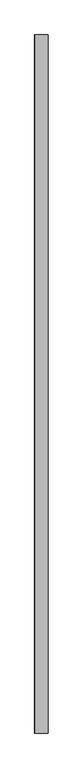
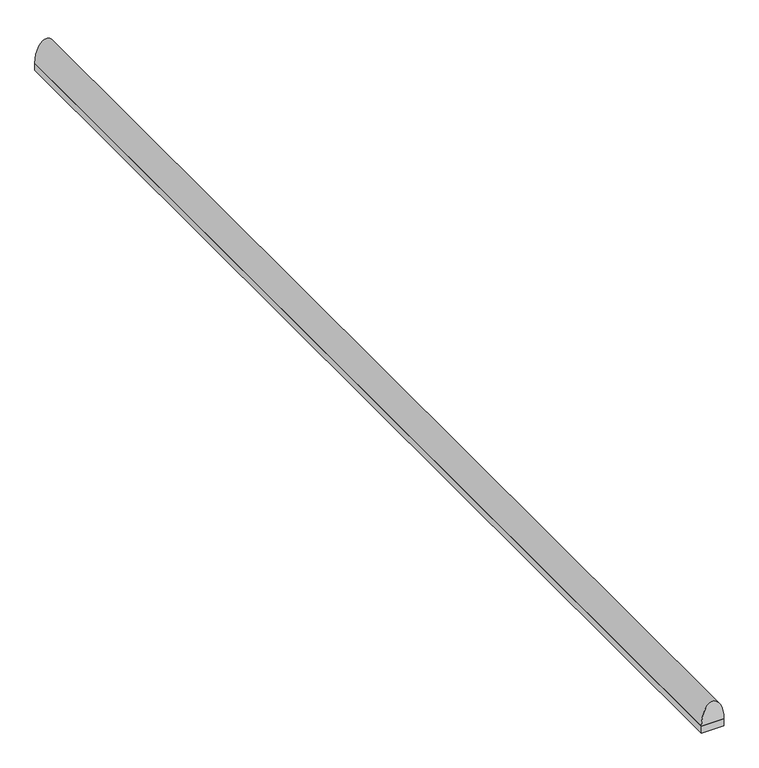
"""IFC4 building model written with IfcOpenShell, lengths in millimetres: proxy geometry, Spinneybeck_ARO Plank 1 : B - 2 1/4 in (5.7 cm)."""

from ifc_helpers import new_model, si_unit, point, frame, origin, origin_with_axes, place, context, project, spatial, polyline, ellipse_curve, trimmed, outline, extrude, source, transform, mapped, element, save
from ifc_brep_helpers import plane_surface, extruded_surface, advanced_brep


def specialty_equipment_0e2ca00c(model_context):
    return source(origin(), model_context, "Body", "SolidModel", [
        advanced_brep(
        [(28.575, 2946.4, 19.05), (-28.575, 2946.4, 19.05), (28.575, 0.0, 19.05), (-28.575, 0.0, 19.05)],
        [
            (0, 1),
            (1, 0, ellipse_curve(frame((0.0, 2946.4, 19.05), z_axis=(0.0, 1.0, 0.0), x_axis=(-1.0, 0.0, 0.0)), 28.575, 57.15)),
            (2, 3, ellipse_curve(frame((0.0, 0.0, 19.05), z_axis=(0.0, -1.0, 0.0), x_axis=(-1.0, 0.0, 0.0)), 28.575, 57.15)),
            (3, 2),
            (0, 2),
            (3, 1),
        ],
        [
            plane_surface(frame((0.0, 2946.4, 0.0), z_axis=(0.0, 1.0, 0.0), x_axis=(0.0, 0.0, 1.0))),
            plane_surface(frame((0.0, 0.0, 0.0), z_axis=(0.0, -1.0, 0.0), x_axis=(0.0, 0.0, 1.0))),
            plane_surface(frame((28.575, 2946.4, 19.05), z_axis=(0.0, 0.0, -1.0), x_axis=(0.0, -1.0, 0.0))),
            extruded_surface(trimmed(ellipse_curve(frame((0.0, 0.0, 19.05), z_axis=(0.0, 1.0, 0.0), x_axis=(-1.0, 0.0, 0.0)), 28.575, 57.15), [point((-28.575, 0.0, 19.05))], [point((28.575, 0.0, 19.05))], True, "CARTESIAN"), (0.0, 2946.4, 0.0), 2946.4),
        ],
        [
            (0, [[1, 2]]),
            (1, [[3, 4]]),
            (2, [[-1, 5, -4, 6]]),
            (3, [[-2, -6, -3, -5]]),
        ],
    ),
        extrude(outline(polyline([(-28.575, 2946.4), (28.575, 2946.4), (28.575, 0.0), (-28.575, 0.0), (-28.575, 2946.4)])), origin_with_axes(), (0.0, 0.0, 1.0), 19.05),
    ])


if __name__ == "__main__":
    model = new_model("IFC4")
    model_context = context("Model", 3, world=origin())
    ifc_project = project(units=[si_unit("LENGTHUNIT", "METRE", prefix="MILLI")], contexts=[model_context])
    site = spatial("IfcSite", under=ifc_project)
    building = spatial("IfcBuilding", under=site)
    placement = place(None, origin())
    specialty_equipment_shape = specialty_equipment_0e2ca00c(model_context)
    element("IfcBuildingElementProxy", 1, Name="Spinneybeck_ARO Plank 1 : B - 2 1/4 in (5.7 cm)", ObjectType="Spinneybeck_ARO Plank 1 : B - 2 1/4 in (5.7 cm)", at=placement, inside=building, context=model_context, shape_type="MappedRepresentation", body=[
        mapped(specialty_equipment_shape, transform((0.0, 0.0, 0.0), x_axis=(1.0, 0.0, 0.0), y_axis=(0.0, 1.0, 0.0), z_axis=(0.0, 0.0, 1.0))),
    ])
    save(model, "model.ifc")
